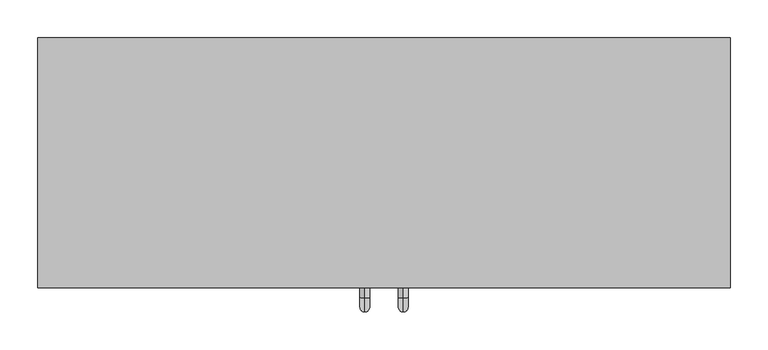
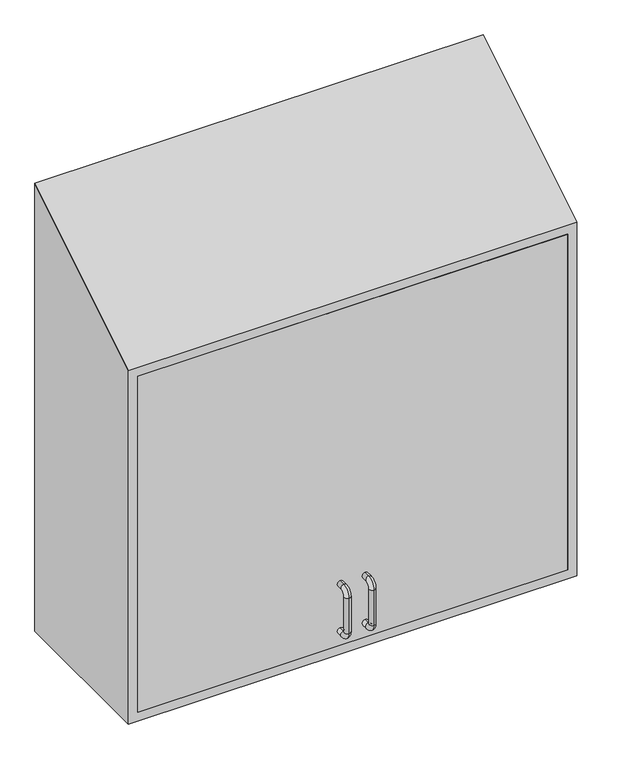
"""IFC4 building model written with IfcOpenShell, lengths in millimetres: proxy geometry, CD040 - Cabinet, W-H, 2 Shelf, 2 DO, Sloping Top, 38x36x13 : CD040 - Cabinet, W-H, 2 Shelf, 2 DO, Sloping Top, 38x36x13."""

from ifc_helpers import new_model, si_unit, point, frame, origin, place, context, project, spatial, polyline, circle_curve, ellipse_curve, trimmed, outline, extrude, faceted_brep, source, transform, mapped, element, save
from ifc_brep_helpers import plane_surface, cylinder_surface, revolved_surface, advanced_brep


def specialty_equipment_a152fc04(model_context):
    return source(origin(), model_context, "Body", "SolidModel", [
        extrude(outline(polyline([(-408.3788372, -392.1125), (-408.3788372, -373.0625), (467.9211628, -373.0625), (467.9211628, -392.1125), (-408.3788372, -392.1125)])), frame((0.0, 0.0, 1390.65), z_axis=(0.0, 0.0, 1.0), x_axis=(1.0, 0.0, 0.0)), (0.0, 0.0, 1.0), 723.9),
        extrude(outline(polyline([(467.9211628, -61.9125), (467.9211628, -80.9625), (-408.3788372, -80.9625), (-408.3788372, -61.9125), (467.9211628, -61.9125)])), frame((0.0, 0.0, 1390.65), z_axis=(0.0, 0.0, 1.0), x_axis=(1.0, 0.0, 0.0)), (0.0, 0.0, 1.0), 723.9),
        advanced_brep(
        [(55.1711628, -392.1125, 1517.65), (55.1711628, -392.1125, 1530.35), (55.1711628, -404.8125, 1530.35), (55.1711628, -404.8125, 1517.65), (55.1711628, -423.8625, 1511.3), (55.1711628, -411.1625, 1511.3), (55.1711628, -423.8625, 1435.1), (55.1711628, -411.1625, 1435.1), (55.1711628, -404.8125, 1416.05), (55.1711628, -404.8125, 1428.75), (55.1711628, -392.1125, 1428.75), (55.1711628, -392.1125, 1416.05)],
        [
            (0, 1, circle_curve(frame((55.1711628, -392.1125, 1524.0), z_axis=(0.0, 1.0, 0.0), x_axis=(0.0, 0.0, -1.0)), 6.35)),
            (1, 0, circle_curve(frame((55.1711628, -392.1125, 1524.0), z_axis=(0.0, 1.0, 0.0), x_axis=(0.0, 0.0, -1.0)), 6.35)),
            (1, 2),
            (2, 3, circle_curve(frame((55.1711628, -404.8125, 1524.0), z_axis=(0.0, 1.0, 0.0), x_axis=(0.0, 0.0, -1.0)), 6.35)),
            (3, 0),
            (3, 2, circle_curve(frame((55.1711628, -404.8125, 1524.0), z_axis=(0.0, 1.0, 0.0), x_axis=(0.0, 0.0, -1.0)), 6.35)),
            (4, 5, circle_curve(frame((55.1711628, -417.5125, 1511.3), z_axis=(0.0, 0.0, 1.0), x_axis=(0.0, 1.0, 0.0)), 6.35)),
            (5, 3, circle_curve(frame((55.1711628, -404.8125, 1511.3), z_axis=(-1.0, 0.0, 0.0), x_axis=(0.0, 0.0, 1.0)), 6.35)),
            (2, 4, circle_curve(frame((55.1711628, -404.8125, 1511.3), z_axis=(1.0, 0.0, 0.0), x_axis=(0.0, 0.0, 1.0)), 19.05)),
            (5, 4, circle_curve(frame((55.1711628, -417.5125, 1511.3), z_axis=(0.0, 0.0, 1.0), x_axis=(0.0, 1.0, 0.0)), 6.35)),
            (4, 6),
            (6, 7, circle_curve(frame((55.1711628, -417.5125, 1435.1), z_axis=(0.0, 0.0, 1.0), x_axis=(0.0, 1.0, 0.0)), 6.35)),
            (7, 5),
            (7, 6, circle_curve(frame((55.1711628, -417.5125, 1435.1), z_axis=(0.0, 0.0, 1.0), x_axis=(0.0, 1.0, 0.0)), 6.35)),
            (8, 9, circle_curve(frame((55.1711628, -404.8125, 1422.4), z_axis=(0.0, -1.0, 0.0), x_axis=(0.0, 0.0, 1.0)), 6.35)),
            (9, 7, circle_curve(frame((55.1711628, -404.8125, 1435.1), z_axis=(-1.0, 0.0, 0.0), x_axis=(0.0, -1.0, 0.0)), 6.35)),
            (6, 8, circle_curve(frame((55.1711628, -404.8125, 1435.1), z_axis=(1.0, 0.0, 0.0), x_axis=(0.0, -1.0, 0.0)), 19.05)),
            (9, 8, circle_curve(frame((55.1711628, -404.8125, 1422.4), z_axis=(0.0, -1.0, 0.0), x_axis=(0.0, 0.0, 1.0)), 6.35)),
            (10, 11, circle_curve(frame((55.1711628, -392.1125, 1422.4), z_axis=(0.0, 1.0, 0.0), x_axis=(0.0, 0.0, 1.0)), 6.35)),
            (11, 10, circle_curve(frame((55.1711628, -392.1125, 1422.4), z_axis=(0.0, 1.0, 0.0), x_axis=(0.0, 0.0, 1.0)), 6.35)),
            (8, 11),
            (10, 9),
        ],
        [
            plane_surface(frame((48.8211628, -392.1125, 1524.0), z_axis=(0.0, 1.0, 0.0), x_axis=(0.0, 0.0, 1.0))),
            cylinder_surface(frame((55.1711628, -392.1125, 1524.0), z_axis=(0.0, 1.0, 0.0), x_axis=(0.0, 0.0, -1.0)), 6.35),
            revolved_surface(trimmed(ellipse_curve(frame((55.1711628, -404.8125, 1524.0), z_axis=(0.0, -1.0, 0.0), x_axis=(0.0, 0.0, -1.0)), 6.35, 6.35), [point((55.1711628, -404.8125, 1517.65))], [point((55.1711628, -404.8125, 1530.35))], True, "CARTESIAN"), (55.1711628, -404.8125, 1511.3), (-1.0, 0.0, 0.0)),
            revolved_surface(trimmed(ellipse_curve(frame((55.1711628, -404.8125, 1524.0), z_axis=(0.0, -1.0, 0.0), x_axis=(0.0, 0.0, -1.0)), 6.35, 6.35), [point((55.1711628, -404.8125, 1530.35))], [point((55.1711628, -404.8125, 1517.65))], True, "CARTESIAN"), (55.1711628, -404.8125, 1511.3), (-1.0, 0.0, 0.0)),
            cylinder_surface(frame((55.1711628, -417.5125, 1511.3), z_axis=(0.0, 0.0, 1.0), x_axis=(0.0, 1.0, 0.0)), 6.35),
            revolved_surface(trimmed(ellipse_curve(frame((55.1711628, -417.5125, 1435.1), z_axis=(0.0, 0.0, -1.0), x_axis=(0.0, 1.0, 0.0)), 6.35, 6.35), [point((55.1711628, -411.1625, 1435.1))], [point((55.1711628, -423.8625, 1435.1))], True, "CARTESIAN"), (55.1711628, -404.8125, 1435.1), (-1.0, 0.0, 0.0)),
            revolved_surface(trimmed(ellipse_curve(frame((55.1711628, -417.5125, 1435.1), z_axis=(0.0, 0.0, -1.0), x_axis=(0.0, 1.0, 0.0)), 6.35, 6.35), [point((55.1711628, -423.8625, 1435.1))], [point((55.1711628, -411.1625, 1435.1))], True, "CARTESIAN"), (55.1711628, -404.8125, 1435.1), (-1.0, 0.0, 0.0)),
            plane_surface(frame((48.8211628, -392.1125, 1422.4), z_axis=(0.0, 1.0, 0.0), x_axis=(0.0, 0.0, -1.0))),
            cylinder_surface(frame((55.1711628, -404.8125, 1422.4), z_axis=(0.0, -1.0, 0.0), x_axis=(0.0, 0.0, 1.0)), 6.35),
        ],
        [
            (0, [[1, 2]]),
            (1, [[3, 4, 5, -2]]),
            (1, [[-5, 6, -3, -1]]),
            (2, [[7, 8, -4, 9]]),
            (3, [[10, -9, -6, -8]]),
            (4, [[11, 12, 13, -7]]),
            (4, [[-13, 14, -11, -10]]),
            (5, [[15, 16, -12, 17]]),
            (6, [[18, -17, -14, -16]]),
            (7, [[19, 20]]),
            (8, [[21, -19, 22, -15]]),
            (8, [[-22, -20, -21, -18]]),
        ],
    ),
        advanced_brep(
        [(4.3711628, -392.1125, 1517.65), (4.3711628, -392.1125, 1530.35), (4.3711628, -404.8125, 1530.35), (4.3711628, -404.8125, 1517.65), (4.3711628, -423.8625, 1511.3), (4.3711628, -411.1625, 1511.3), (4.3711628, -423.8625, 1435.1), (4.3711628, -411.1625, 1435.1), (4.3711628, -404.8125, 1416.05), (4.3711628, -404.8125, 1428.75), (4.3711628, -392.1125, 1428.75), (4.3711628, -392.1125, 1416.05)],
        [
            (0, 1, circle_curve(frame((4.3711628, -392.1125, 1524.0), z_axis=(0.0, 1.0, 0.0), x_axis=(0.0, 0.0, 1.0)), 6.35)),
            (1, 0, circle_curve(frame((4.3711628, -392.1125, 1524.0), z_axis=(0.0, 1.0, 0.0), x_axis=(0.0, 0.0, 1.0)), 6.35)),
            (1, 2),
            (2, 3, circle_curve(frame((4.3711628, -404.8125, 1524.0), z_axis=(0.0, 1.0, 0.0), x_axis=(0.0, 0.0, 1.0)), 6.35)),
            (3, 0),
            (3, 2, circle_curve(frame((4.3711628, -404.8125, 1524.0), z_axis=(0.0, 1.0, 0.0), x_axis=(0.0, 0.0, 1.0)), 6.35)),
            (4, 5, circle_curve(frame((4.3711628, -417.5125, 1511.3), z_axis=(0.0, 0.0, 1.0), x_axis=(0.0, -1.0, 0.0)), 6.35)),
            (5, 3, circle_curve(frame((4.3711628, -404.8125, 1511.3), z_axis=(-1.0, 0.0, 0.0), x_axis=(0.0, 0.0, 1.0)), 6.35)),
            (2, 4, circle_curve(frame((4.3711628, -404.8125, 1511.3), z_axis=(1.0, 0.0, 0.0), x_axis=(0.0, 0.0, 1.0)), 19.05)),
            (5, 4, circle_curve(frame((4.3711628, -417.5125, 1511.3), z_axis=(0.0, 0.0, 1.0), x_axis=(0.0, -1.0, 0.0)), 6.35)),
            (4, 6),
            (6, 7, circle_curve(frame((4.3711628, -417.5125, 1435.1), z_axis=(0.0, 0.0, 1.0), x_axis=(0.0, -1.0, 0.0)), 6.35)),
            (7, 5),
            (7, 6, circle_curve(frame((4.3711628, -417.5125, 1435.1), z_axis=(0.0, 0.0, 1.0), x_axis=(0.0, -1.0, 0.0)), 6.35)),
            (8, 9, circle_curve(frame((4.3711628, -404.8125, 1422.4), z_axis=(0.0, -1.0, 0.0), x_axis=(0.0, 0.0, -1.0)), 6.35)),
            (9, 7, circle_curve(frame((4.3711628, -404.8125, 1435.1), z_axis=(-1.0, 0.0, 0.0), x_axis=(0.0, -1.0, 0.0)), 6.35)),
            (6, 8, circle_curve(frame((4.3711628, -404.8125, 1435.1), z_axis=(1.0, 0.0, 0.0), x_axis=(0.0, -1.0, 0.0)), 19.05)),
            (9, 8, circle_curve(frame((4.3711628, -404.8125, 1422.4), z_axis=(0.0, -1.0, 0.0), x_axis=(0.0, 0.0, -1.0)), 6.35)),
            (10, 11, circle_curve(frame((4.3711628, -392.1125, 1422.4), z_axis=(0.0, 1.0, 0.0), x_axis=(0.0, 0.0, -1.0)), 6.35)),
            (11, 10, circle_curve(frame((4.3711628, -392.1125, 1422.4), z_axis=(0.0, 1.0, 0.0), x_axis=(0.0, 0.0, -1.0)), 6.35)),
            (8, 11),
            (10, 9),
        ],
        [
            plane_surface(frame((-1.9788372, -392.1125, 1524.0), z_axis=(0.0, 1.0, 0.0), x_axis=(0.0, 0.0, 1.0))),
            cylinder_surface(frame((4.3711628, -392.1125, 1524.0), z_axis=(0.0, 1.0, 0.0), x_axis=(0.0, 0.0, 1.0)), 6.35),
            revolved_surface(trimmed(ellipse_curve(frame((4.3711628, -404.8125, 1524.0), z_axis=(0.0, -1.0, 0.0), x_axis=(0.0, 0.0, 1.0)), 6.35, 6.35), [point((4.3711628, -404.8125, 1517.65))], [point((4.3711628, -404.8125, 1530.35))], True, "CARTESIAN"), (4.3711628, -404.8125, 1511.3), (-1.0, 0.0, 0.0)),
            revolved_surface(trimmed(ellipse_curve(frame((4.3711628, -404.8125, 1524.0), z_axis=(0.0, -1.0, 0.0), x_axis=(0.0, 0.0, 1.0)), 6.35, 6.35), [point((4.3711628, -404.8125, 1530.35))], [point((4.3711628, -404.8125, 1517.65))], True, "CARTESIAN"), (4.3711628, -404.8125, 1511.3), (-1.0, 0.0, 0.0)),
            cylinder_surface(frame((4.3711628, -417.5125, 1511.3), z_axis=(0.0, 0.0, 1.0), x_axis=(0.0, -1.0, 0.0)), 6.35),
            revolved_surface(trimmed(ellipse_curve(frame((4.3711628, -417.5125, 1435.1), z_axis=(0.0, 0.0, -1.0), x_axis=(0.0, -1.0, 0.0)), 6.35, 6.35), [point((4.3711628, -411.1625, 1435.1))], [point((4.3711628, -423.8625, 1435.1))], True, "CARTESIAN"), (4.3711628, -404.8125, 1435.1), (-1.0, 0.0, 0.0)),
            revolved_surface(trimmed(ellipse_curve(frame((4.3711628, -417.5125, 1435.1), z_axis=(0.0, 0.0, -1.0), x_axis=(0.0, -1.0, 0.0)), 6.35, 6.35), [point((4.3711628, -423.8625, 1435.1))], [point((4.3711628, -411.1625, 1435.1))], True, "CARTESIAN"), (4.3711628, -404.8125, 1435.1), (-1.0, 0.0, 0.0)),
            plane_surface(frame((-1.9788372, -392.1125, 1422.4), z_axis=(0.0, 1.0, 0.0), x_axis=(0.0, 0.0, -1.0))),
            cylinder_surface(frame((4.3711628, -404.8125, 1422.4), z_axis=(0.0, -1.0, 0.0), x_axis=(0.0, 0.0, -1.0)), 6.35),
        ],
        [
            (0, [[1, 2]]),
            (1, [[3, 4, 5, -2]]),
            (1, [[-5, 6, -3, -1]]),
            (2, [[7, 8, -4, 9]]),
            (3, [[10, -9, -6, -8]]),
            (4, [[11, 12, 13, -7]]),
            (4, [[-13, 14, -11, -10]]),
            (5, [[15, 16, -12, 17]]),
            (6, [[18, -17, -14, -16]]),
            (7, [[19, 20]]),
            (8, [[21, -19, 22, -15]]),
            (8, [[-22, -20, -21, -18]]),
        ],
    ),
        faceted_brep([(486.9711628, -392.1125, 2133.6), (-427.4288372, -392.1125, 2133.6), (-427.4288372, -392.1125, 1371.6), (486.9711628, -392.1125, 1371.6), (-408.3788372, -392.1125, 2114.55), (467.9211628, -392.1125, 2114.55), (467.9211628, -392.1125, 1390.65), (-408.3788372, -392.1125, 1390.65), (486.9711628, -61.9125, 1371.6), (-427.4288372, -61.9125, 1371.6), (467.9211628, -61.9125, 2114.55), (-408.3788372, -61.9125, 2114.55), (467.9211628, -61.9125, 1390.65), (-408.3788372, -61.9125, 1390.65), (486.9711628, -61.9125, 2336.8), (-427.4288372, -61.9125, 2336.8)], [[[0, 1, 2, 3], [4, 5, 6, 7]], [[8, 3, 2, 9]], [[10, 5, 4, 11]], [[12, 6, 5, 10]], [[13, 7, 6, 12]], [[11, 4, 7, 13]], [[8, 14, 0, 3]], [[15, 9, 2, 1]], [[8, 9, 15, 14], [11, 13, 12, 10]], [[14, 15, 1, 0]]]),
    ])


if __name__ == "__main__":
    model = new_model("IFC4")
    model_context = context("Model", 3, world=origin())
    ifc_project = project(units=[si_unit("LENGTHUNIT", "METRE", prefix="MILLI")], contexts=[model_context])
    site = spatial("IfcSite", under=ifc_project)
    building = spatial("IfcBuilding", under=site)
    placement = place(None, origin())
    specialty_equipment_shape = specialty_equipment_a152fc04(model_context)
    element("IfcBuildingElementProxy", 1, Name="CD040 - Cabinet, W-H, 2 Shelf, 2 DO, Sloping Top, 38x36x13 : CD040 - Cabinet, W-H, 2 Shelf, 2 DO, Sloping Top, 38x36x13", ObjectType="CD040 - Cabinet, W-H, 2 Shelf, 2 DO, Sloping Top, 38x36x13 : CD040 - Cabinet, W-H, 2 Shelf, 2 DO, Sloping Top, 38x36x13", at=placement, inside=building, context=model_context, shape_type="MappedRepresentation", body=[
        mapped(specialty_equipment_shape, transform((0.0, 0.0, 0.0), x_axis=(1.0, 0.0, 0.0), y_axis=(0.0, 1.0, 0.0), z_axis=(0.0, 0.0, 1.0))),
    ])
    save(model, "model.ifc")
